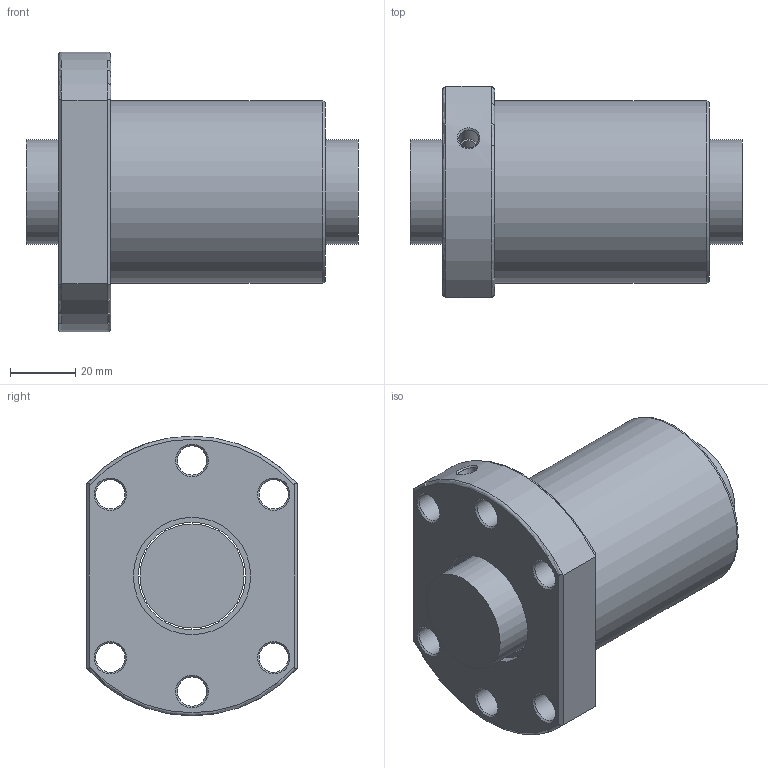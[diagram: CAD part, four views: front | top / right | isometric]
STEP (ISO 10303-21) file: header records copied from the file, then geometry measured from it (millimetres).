
FILE_DESCRIPTION(/* description */ (''),/* implementation_level */ '2;1');
FILE_NAME(/* name */ 'FSCD-3232-T4.step',/* time_stamp */ '2016-10-05T10:34:53+08:00',/* author */ (''),/* organization */ (''),/* preprocessor_version */ 'ST-DEVELOPER v11',/* originating_system */ 'SIEMENS UGS NX 6.0',/* authorisation */ '');
FILE_SCHEMA (('AUTOMOTIVE_DESIGN { 1 0 10303 214 1 1 1 1 }'));
Length unit declared in the file: millimetre
Products named in the file (1): FSCD-3232-T4
Bounding box: 102 x 65 x 86 mm (x, y, z)
Volume: 246627.4 mm3; surface area: 46334.6 mm2
Topology: 2 solids, 2 shells, 48 faces, 105 edges, 65 vertices
Faces by surface type: cylinder 15, plane 14, cone 13, torus 5, bspline 1
Full cylindrical faces by diameter (mm): 5 x1, 6 x1, 9 x6, 32 x1, 33 x1, 36 x2, 56 x1
Entity records: 1408 total; most frequent: CARTESIAN_POINT 449, DIRECTION 200, ORIENTED_EDGE 136, EDGE_LOOP 94, AXIS2_PLACEMENT_3D 94, FACE_BOUND 82, EDGE_CURVE 68, VERTEX_POINT 57
